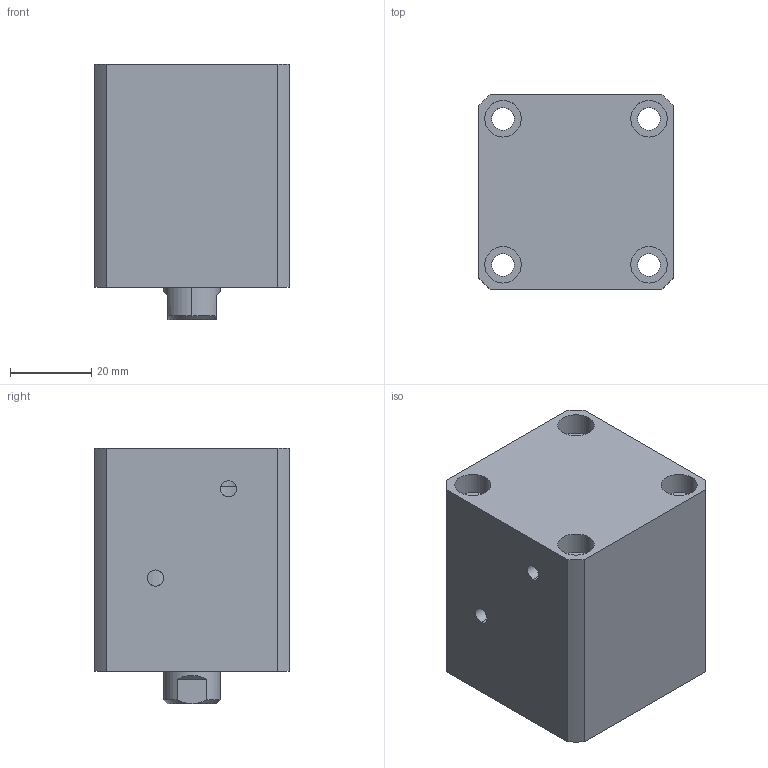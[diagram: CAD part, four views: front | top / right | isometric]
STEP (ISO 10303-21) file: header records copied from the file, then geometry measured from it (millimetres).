
FILE_DESCRIPTION (( 'STEP AP214' ), '1' );
FILE_NAME ('chtb-sdma25x10n_asm.STEP', '2018-05-22T06:34:17', ( 'Windows' ), ( 'Microsoft' ), 'SwSTEP 2.0', 'SolidWorks 2015', '' );
FILE_SCHEMA (( 'AUTOMOTIVE_DESIGN' ));
Length unit declared in the file: millimetre
Products named in the file (4): CHTB-SDMA25X10NHSG; CHTB-SDMA25X10NBT; CHTB-25QG; chtb-sdma25x10n_asm
Assembly tree (3 placements, depth 2):
  chtb-sdma25x10n_asm
    CHTB-25QG
    CHTB-SDMA25X10NBT
    CHTB-SDMA25X10NHSG
Bounding box: 48 x 48 x 63 mm (x, y, z)
Volume: 113275.9 mm3; surface area: 33858.8 mm2
Topology: 3 solids, 3 shells, 142 faces, 379 edges, 257 vertices
Faces by surface type: cylinder 89, plane 34, bspline 10, cone 9
Entity records: 8020 total; most frequent: CARTESIAN_POINT 4393, ORIENTED_EDGE 746, DIRECTION 661, EDGE_CURVE 373, AXIS2_PLACEMENT_3D 272, VERTEX_POINT 257, EDGE_LOOP 180, FACE_OUTER_BOUND 142
